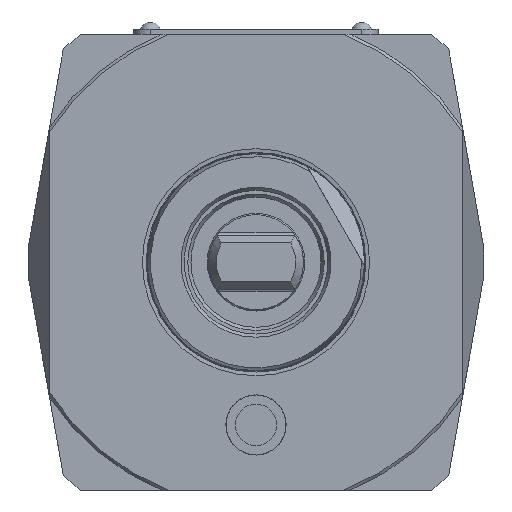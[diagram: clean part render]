
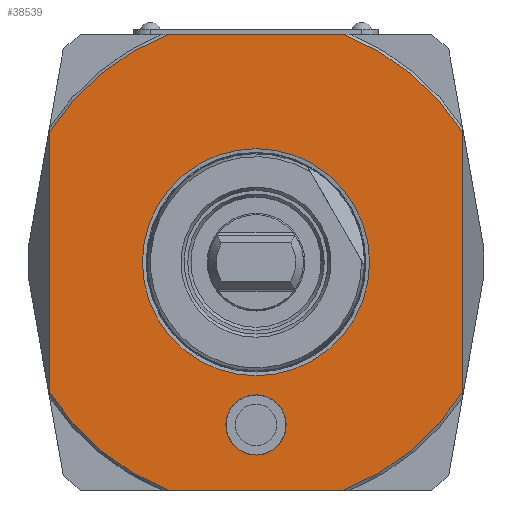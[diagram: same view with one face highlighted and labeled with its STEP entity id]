
A CAD part, left-side view. The second image highlights one B-rep face of the part: STEP entity #38539.
In plain terms, the highlighted planar face has unit normal (-1, 0, 0).
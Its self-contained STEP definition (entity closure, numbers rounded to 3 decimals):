
#15959=CIRCLE('',#37533,20.94);
#15960=CIRCLE('',#37535,45.);
#15961=CIRCLE('',#37536,45.);
#15962=CIRCLE('',#37537,45.);
#15963=CIRCLE('',#37538,45.);
#15964=CIRCLE('',#37539,5.55);
#16270=PLANE('',#37534);
#17004=ORIENTED_EDGE('',*,*,#22103,.F.);
#17005=ORIENTED_EDGE('',*,*,#22104,.F.);
#17006=ORIENTED_EDGE('',*,*,#22105,.F.);
#17007=ORIENTED_EDGE('',*,*,#22106,.F.);
#17008=ORIENTED_EDGE('',*,*,#22107,.F.);
#17009=ORIENTED_EDGE('',*,*,#22108,.F.);
#17010=ORIENTED_EDGE('',*,*,#22109,.F.);
#17011=ORIENTED_EDGE('',*,*,#22110,.F.);
#17012=ORIENTED_EDGE('',*,*,#22111,.F.);
#17013=ORIENTED_EDGE('',*,*,#22102,.F.);
#19636=VECTOR('',#24994,1.);
#19637=VECTOR('',#24997,1.);
#19638=VECTOR('',#25000,1.);
#19639=VECTOR('',#25003,1.);
#20360=LINE('',#28799,#19636);
#20361=LINE('',#28803,#19637);
#20362=LINE('',#28807,#19638);
#20363=LINE('',#28811,#19639);
#21149=VERTEX_POINT('',#28794);
#21150=VERTEX_POINT('',#28797);
#21151=VERTEX_POINT('',#28798);
#21152=VERTEX_POINT('',#28800);
#21153=VERTEX_POINT('',#28802);
#21154=VERTEX_POINT('',#28804);
#21155=VERTEX_POINT('',#28806);
#21156=VERTEX_POINT('',#28808);
#21157=VERTEX_POINT('',#28810);
#21158=VERTEX_POINT('',#28813);
#22102=EDGE_CURVE('',#21149,#21149,#15959,.T.);
#22103=EDGE_CURVE('',#21150,#21151,#20360,.T.);
#22104=EDGE_CURVE('',#21152,#21150,#15960,.T.);
#22105=EDGE_CURVE('',#21153,#21152,#20361,.T.);
#22106=EDGE_CURVE('',#21154,#21153,#15961,.T.);
#22107=EDGE_CURVE('',#21155,#21154,#20362,.T.);
#22108=EDGE_CURVE('',#21156,#21155,#15962,.T.);
#22109=EDGE_CURVE('',#21157,#21156,#20363,.T.);
#22110=EDGE_CURVE('',#21151,#21157,#15963,.T.);
#22111=EDGE_CURVE('',#21158,#21158,#15964,.T.);
#23418=EDGE_LOOP('',(#17004,#17005,#17006,#17007,#17008,#17009,#17010,#17011));
#23419=EDGE_LOOP('',(#17012));
#23420=EDGE_LOOP('',(#17013));
#24130=FACE_BOUND('',#23418,.T.);
#24131=FACE_BOUND('',#23419,.T.);
#24132=FACE_BOUND('',#23420,.T.);
#24990=DIRECTION('',(-1.,0.,0.));
#24991=DIRECTION('',(0.,0.,20.94));
#24992=DIRECTION('',(-1.,0.,0.));
#24993=DIRECTION('',(0.,1.,0.));
#24994=DIRECTION('',(0.,-32.311,0.));
#24995=DIRECTION('',(1.,0.,0.));
#24996=DIRECTION('',(0.,38.303,23.62));
#24997=DIRECTION('',(0.,0.,48.208));
#24998=DIRECTION('',(1.,0.,0.));
#24999=DIRECTION('',(0.,16.155,-42.));
#25000=DIRECTION('',(0.,32.311,0.));
#25001=DIRECTION('',(1.,0.,0.));
#25002=DIRECTION('',(0.,-38.303,-23.62));
#25003=DIRECTION('',(0.,0.,-48.208));
#25004=DIRECTION('',(1.,0.,0.));
#25005=DIRECTION('',(0.,-16.155,42.));
#25006=DIRECTION('',(-1.,0.,0.));
#25007=DIRECTION('',(0.,0.,5.55));
#28794=CARTESIAN_POINT('',(13.25,-8.541,-74.598));
#28795=CARTESIAN_POINT('',(13.25,-8.541,-95.537));
#28796=CARTESIAN_POINT('',(13.25,-8.541,-140.537));
#28797=CARTESIAN_POINT('',(13.25,7.614,-53.537));
#28798=CARTESIAN_POINT('',(13.25,-24.697,-53.537));
#28799=CARTESIAN_POINT('',(13.25,7.614,-53.537));
#28800=CARTESIAN_POINT('',(13.25,29.459,-71.433));
#28801=CARTESIAN_POINT('',(13.25,-8.541,-95.537));
#28802=CARTESIAN_POINT('',(13.25,29.459,-119.641));
#28803=CARTESIAN_POINT('',(13.25,29.459,-119.641));
#28804=CARTESIAN_POINT('',(13.25,7.614,-137.537));
#28805=CARTESIAN_POINT('',(13.25,-8.541,-95.537));
#28806=CARTESIAN_POINT('',(13.25,-24.697,-137.537));
#28807=CARTESIAN_POINT('',(13.25,-24.697,-137.537));
#28808=CARTESIAN_POINT('',(13.25,-46.541,-119.641));
#28809=CARTESIAN_POINT('',(13.25,-8.541,-95.537));
#28810=CARTESIAN_POINT('',(13.25,-46.541,-71.433));
#28811=CARTESIAN_POINT('',(13.25,-46.541,-71.433));
#28812=CARTESIAN_POINT('',(13.25,-8.541,-95.537));
#28813=CARTESIAN_POINT('',(13.25,-8.541,-119.987));
#28814=CARTESIAN_POINT('',(13.25,-8.541,-125.537));
#37533=AXIS2_PLACEMENT_3D('',#28795,#24990,#24991);
#37534=AXIS2_PLACEMENT_3D('',#28796,#24992,#24993);
#37535=AXIS2_PLACEMENT_3D('',#28801,#24995,#24996);
#37536=AXIS2_PLACEMENT_3D('',#28805,#24998,#24999);
#37537=AXIS2_PLACEMENT_3D('',#28809,#25001,#25002);
#37538=AXIS2_PLACEMENT_3D('',#28812,#25004,#25005);
#37539=AXIS2_PLACEMENT_3D('',#28814,#25006,#25007);
#38539=ADVANCED_FACE('',(#24130,#24131,#24132),#16270,.T.);
